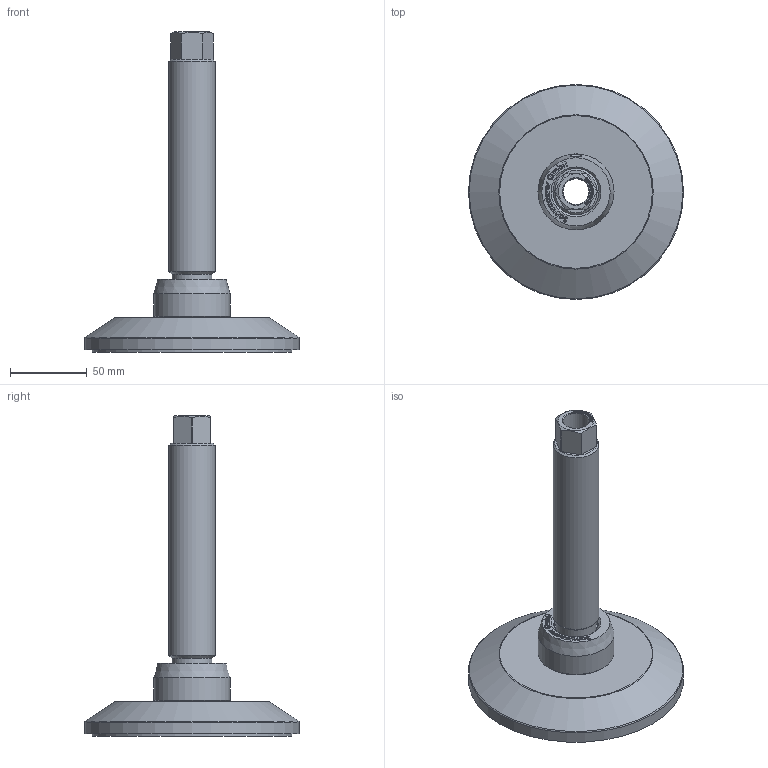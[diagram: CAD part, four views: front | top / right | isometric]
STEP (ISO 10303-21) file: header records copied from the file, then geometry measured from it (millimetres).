
FILE_DESCRIPTION(/* description */ ('JCM 130C - M30 - S6'),/* implementation_level */ '2;1');
FILE_NAME(/* name */ 'P:\CAD ab 2015\STP - Internetseite\JCMHD\JCMHD 130C - S - HSD180.stp',/* time_stamp */ '2017-01-24T09:45:09+01:00',/* author */ ('T. Rey'),/* organization */ ('Schwaderer GmbH Robert-Bosch-Straße 10 71563 Affalterbach'),/* preprocessor_version */ 'ST-DEVELOPER v16.1',/* originating_system */ 'Autodesk Inventor LT ',/* authorisation */ '');
FILE_SCHEMA (('CONFIG_CONTROL_DESIGN'));
Length unit declared in the file: millimetre
Products named in the file (1): JCMHD 130C - S6 - HSD180
Bounding box: 140 x 140 x 208.63 mm (x, y, z)
Volume: 391846.3 mm3; surface area: 102976.3 mm2
Topology: 4 solids, 4 shells, 479 faces, 1262 edges, 831 vertices
Faces by surface type: plane 243, bspline 192, cylinder 23, cone 17, torus 3, sphere 1
Full cylindrical faces by diameter (mm): 5 x1, 17 x1, 18.5 x1, 25 x1, 26 x1, 26.5 x1, 27.5 x1, 28.5 x2, 30 x2, 31 x1, 49.5 x1, 130 x2, 140 x1
Entity records: 15604 total; most frequent: CARTESIAN_POINT 5178, ORIENTED_EDGE 2440, DIRECTION 1468, EDGE_CURVE 1220, VERTEX_POINT 824, LINE 750, VECTOR 750, EDGE_LOOP 564
